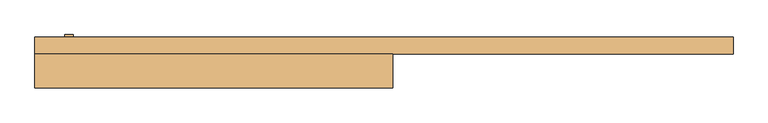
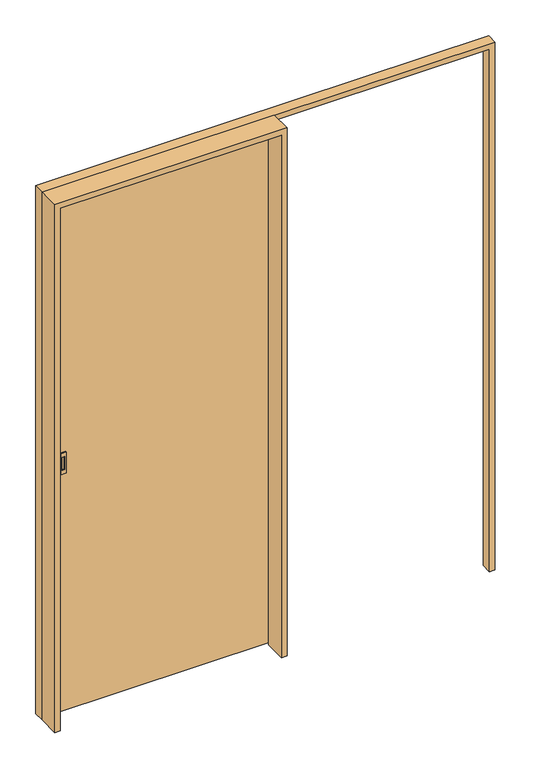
"""IFC4 building model written with IfcOpenShell, lengths in millimetres: door geometry, 木製_片引き_フラッシュ : WD-4 w800h2000."""

from ifc_helpers import new_model, si_unit, frame, origin, origin_with_axes, place, context, project, spatial, polyline, outline, extrude, faceted_brep, source, transform, mapped, element, save


def door_3f60c47c(model_context):
    return source(origin(), model_context, "Body", "SolidModel", [
        faceted_brep([(-335.535504, 25.0, 910.0), (-335.535504, 25.0, 990.0), (-355.535504, 25.0, 990.0), (-355.535504, 25.0, 910.0), (-350.535504, 25.0, 975.0), (-340.535504, 25.0, 975.0), (-340.535504, 25.0, 925.0), (-350.535504, 25.0, 925.0), (-335.535504, 65.0, 910.0), (-355.535504, 65.0, 910.0), (-355.535504, 65.0, 990.0), (-335.535504, 65.0, 990.0), (-350.535504, 65.0, 925.0), (-340.535504, 65.0, 925.0), (-340.535504, 65.0, 975.0), (-350.535504, 65.0, 975.0), (-350.535504, 30.0, 975.0), (-350.535504, 30.0, 925.0), (-340.535504, 30.0, 925.0), (-340.535504, 30.0, 975.0), (-340.535504, 60.0, 925.0), (-350.535504, 60.0, 925.0), (-350.535504, 60.0, 975.0), (-340.535504, 60.0, 975.0)], [[[0, 1, 2, 3], [4, 5, 6, 7]], [[8, 9, 10, 11], [12, 13, 14, 15]], [[1, 0, 8, 11]], [[2, 1, 11, 10]], [[3, 2, 10, 9]], [[0, 3, 9, 8]], [[16, 17, 18, 19]], [[16, 19, 5, 4]], [[19, 18, 6, 5]], [[18, 17, 7, 6]], [[17, 16, 4, 7]], [[20, 21, 22, 23]], [[21, 20, 13, 12]], [[22, 21, 12, 15]], [[23, 22, 15, 14]], [[20, 23, 14, 13]]]),
        extrude(outline(polyline([(2020.0, 414.464496), (2020.0, -425.535504), (0.0, -425.535504), (0.0, -405.535504), (2000.0, -405.535504), (2000.0, 394.464496), (0.0, 394.464496), (0.0, 414.464496), (2020.0, 414.464496)])), frame((0.0, -60.0, 0.0), z_axis=(0.0, 1.0, 0.0), x_axis=(0.0, 0.0, 1.0)), (0.0, 0.0, 1.0), 80.0),
        extrude(outline(polyline([(2020.0, 1214.464496), (2020.0, -425.535504), (0.0, -425.535504), (0.0, -405.535504), (2000.0, -405.535504), (2000.0, 1194.464496), (0.0, 1194.464496), (0.0, 1214.464496), (2020.0, 1214.464496)])), frame((0.0, 20.0, 0.0), z_axis=(0.0, 1.0, 0.0), x_axis=(0.0, 0.0, 1.0)), (0.0, 0.0, 1.0), 40.0),
        extrude(outline(polyline([(414.464496, 30.0), (-405.535504, 30.0), (-405.535504, 60.0), (414.464496, 60.0), (414.464496, 30.0)])), origin_with_axes(), (0.0, 0.0, 1.0), 2000.0),
    ])


if __name__ == "__main__":
    model = new_model("IFC4")
    model_context = context("Model", 3, world=origin())
    ifc_project = project(units=[si_unit("LENGTHUNIT", "METRE", prefix="MILLI")], contexts=[model_context])
    site = spatial("IfcSite", under=ifc_project)
    building = spatial("IfcBuilding", under=site)
    placement = place(None, origin())
    door_shape = door_3f60c47c(model_context)
    element("IfcDoor", 1, ObjectType="木製_片引き_フラッシュ : WD-4 w800h2000", at=placement, inside=building, context=model_context, shape_type="MappedRepresentation", body=[
        mapped(door_shape, transform((0.0, 0.0, 0.0), x_axis=(1.0, 0.0, 0.0), y_axis=(0.0, 1.0, 0.0), z_axis=(0.0, 0.0, 1.0))),
    ])
    save(model, "model.ifc")
